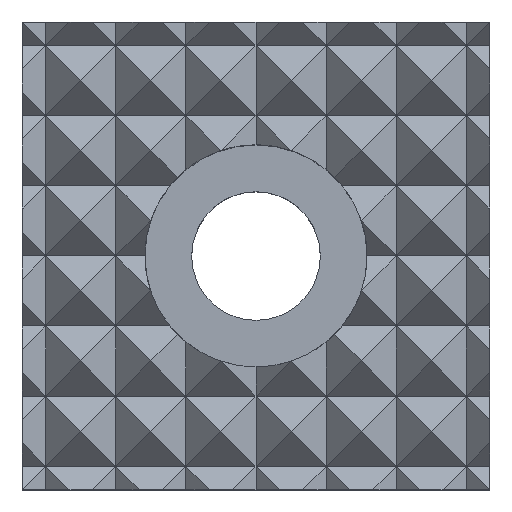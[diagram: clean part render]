
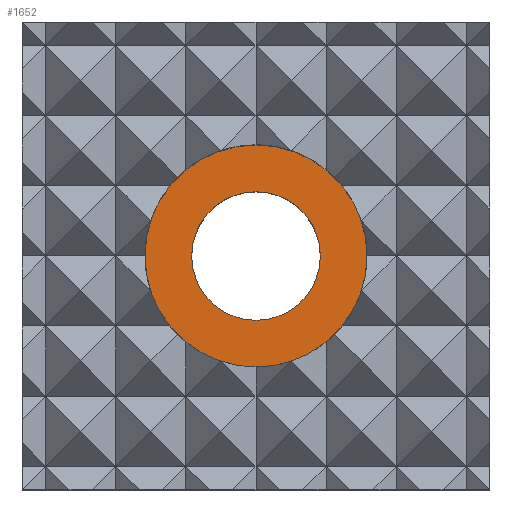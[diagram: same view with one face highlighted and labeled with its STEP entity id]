
A CAD part, top view. The second image highlights one B-rep face of the part: STEP entity #1652.
In plain terms, the highlighted planar face has unit normal (0, 0, 1).
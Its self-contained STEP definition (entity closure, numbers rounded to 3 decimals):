
#152 = AXIS2_PLACEMENT_3D ( 'NONE', #759, #3859, #2991 ) ;
#222 = AXIS2_PLACEMENT_3D ( 'NONE', #2628, #4939, #315 ) ;
#262 = DIRECTION ( 'NONE',  ( 0., 0., -1. ) ) ;
#266 = DIRECTION ( 'NONE',  ( 0., 0., -1. ) ) ;
#272 = EDGE_CURVE ( 'NONE', #2168, #3868, #874, .T. ) ;
#304 = CARTESIAN_POINT ( 'NONE',  ( 4.75, 0., 5.5 ) ) ;
#315 = DIRECTION ( 'NONE',  ( 1., 0., 0. ) ) ;
#443 = CARTESIAN_POINT ( 'NONE',  ( 2.75, 0., 5.5 ) ) ;
#463 = EDGE_CURVE ( 'NONE', #3928, #529, #1691, .T. ) ;
#477 = EDGE_CURVE ( 'NONE', #3868, #2168, #4287, .T. ) ;
#529 = VERTEX_POINT ( 'NONE', #3827 ) ;
#665 = EDGE_LOOP ( 'NONE', ( #3273, #3403 ) ) ;
#759 = CARTESIAN_POINT ( 'NONE',  ( 2.75, 0., 5.5 ) ) ;
#874 = CIRCLE ( 'NONE', #5015, 2.75 ) ;
#1019 = CARTESIAN_POINT ( 'NONE',  ( 0., 0., 5.5 ) ) ;
#1243 = CARTESIAN_POINT ( 'NONE',  ( 0., 0., 5.5 ) ) ;
#1627 = DIRECTION ( 'NONE',  ( 0., 0., 1. ) ) ;
#1652 = ADVANCED_FACE ( 'NONE', ( #1953, #4566 ), #3777, .T. ) ;
#1691 = CIRCLE ( 'NONE', #2339, 4.75 ) ;
#1818 = DIRECTION ( 'NONE',  ( 1., 0., 0. ) ) ;
#1953 = FACE_BOUND ( 'NONE', #665, .T. ) ;
#2095 = ORIENTED_EDGE ( 'NONE', *, *, #3490, .F. ) ;
#2168 = VERTEX_POINT ( 'NONE', #443 ) ;
#2339 = AXIS2_PLACEMENT_3D ( 'NONE', #2510, #266, #1818 ) ;
#2510 = CARTESIAN_POINT ( 'NONE',  ( 0., 0., 5.5 ) ) ;
#2628 = CARTESIAN_POINT ( 'NONE',  ( 0., 0., 5.5 ) ) ;
#2933 = DIRECTION ( 'NONE',  ( 1., 0., 0. ) ) ;
#2991 = DIRECTION ( 'NONE',  ( 1., 0., 0. ) ) ;
#3093 = AXIS2_PLACEMENT_3D ( 'NONE', #1019, #262, #2933 ) ;
#3273 = ORIENTED_EDGE ( 'NONE', *, *, #272, .F. ) ;
#3403 = ORIENTED_EDGE ( 'NONE', *, *, #477, .F. ) ;
#3423 = CIRCLE ( 'NONE', #3093, 4.75 ) ;
#3490 = EDGE_CURVE ( 'NONE', #529, #3928, #3423, .T. ) ;
#3777 = PLANE ( 'NONE',  #152 ) ;
#3827 = CARTESIAN_POINT ( 'NONE',  ( -4.75, 0., 5.5 ) ) ;
#3859 = DIRECTION ( 'NONE',  ( 0., 0., 1. ) ) ;
#3868 = VERTEX_POINT ( 'NONE', #4855 ) ;
#3923 = ORIENTED_EDGE ( 'NONE', *, *, #463, .F. ) ;
#3928 = VERTEX_POINT ( 'NONE', #304 ) ;
#4268 = DIRECTION ( 'NONE',  ( 1., 0., 0. ) ) ;
#4287 = CIRCLE ( 'NONE', #222, 2.75 ) ;
#4491 = EDGE_LOOP ( 'NONE', ( #3923, #2095 ) ) ;
#4566 = FACE_OUTER_BOUND ( 'NONE', #4491, .T. ) ;
#4855 = CARTESIAN_POINT ( 'NONE',  ( -2.75, 0., 5.5 ) ) ;
#4939 = DIRECTION ( 'NONE',  ( 0., 0., 1. ) ) ;
#5015 = AXIS2_PLACEMENT_3D ( 'NONE', #1243, #1627, #4268 ) ;
